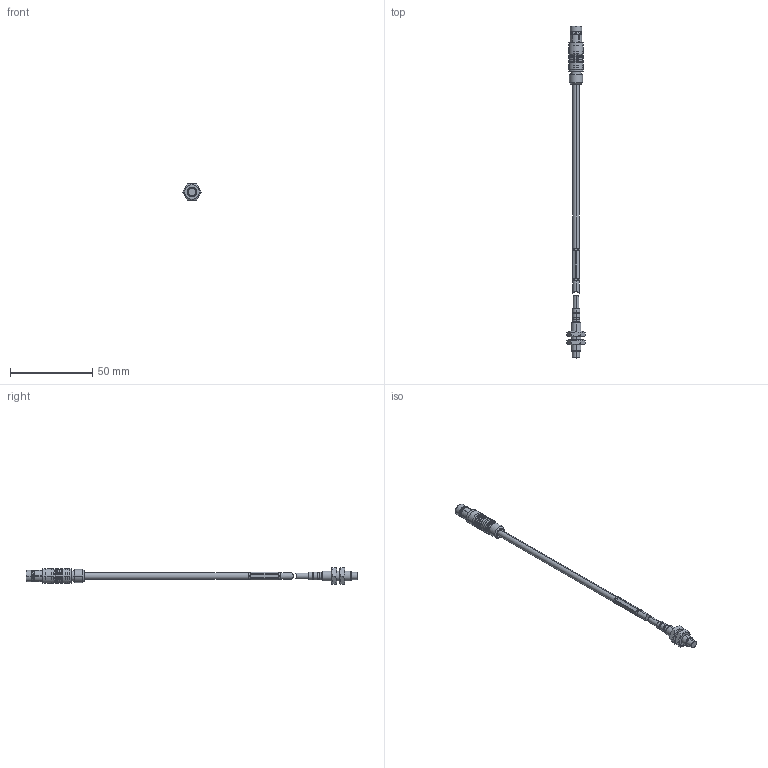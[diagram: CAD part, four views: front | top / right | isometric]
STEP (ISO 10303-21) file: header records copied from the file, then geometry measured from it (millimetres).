
FILE_DESCRIPTION((''),'2;1');
FILE_NAME('0000180923_ASM','2018-08-06T',('11000065'),(''),'CREO PARAMETRIC BY PTC INC, 2018070','CREO PARAMETRIC BY PTC INC, 2018070','');
FILE_SCHEMA(('AUTOMOTIVE_DESIGN { 1 0 10303 214 1 1 1 1 }'));
Length unit declared in the file: millimetre
Products named in the file (4): 0000180925; 0000044467; 0000181487; 0000180923_ASM
Assembly tree (4 placements, depth 2):
  0000180923_ASM
    0000180925
    0000044467  x2
    0000181487
Bounding box: 11.55 x 202.41 x 10 mm (x, y, z)
Volume: 4450.6 mm3; surface area: 4952 mm2
Topology: 4 solids, 5 shells, 306 faces, 718 edges, 446 vertices
Faces by surface type: cylinder 118, plane 82, cone 70, torus 32, revolution 4
Entity records: 11607 total; most frequent: CARTESIAN_POINT 2612, DIRECTION 1412, ORIENTED_EDGE 1348, PRESENTATION_STYLE_ASSIGNMENT 689, STYLED_ITEM 677, CURVE_STYLE 674, EDGE_CURVE 674, AXIS2_PLACEMENT_3D 582
